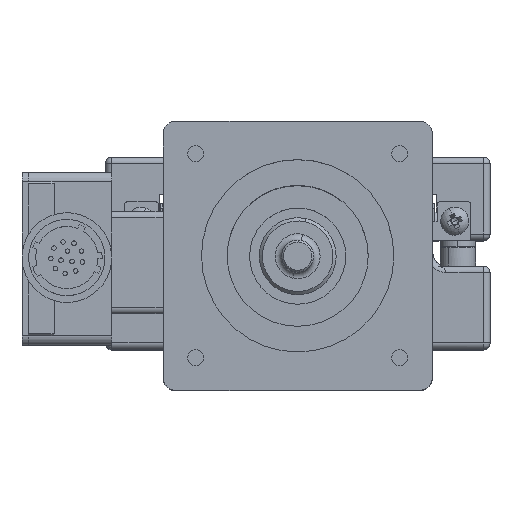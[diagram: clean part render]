
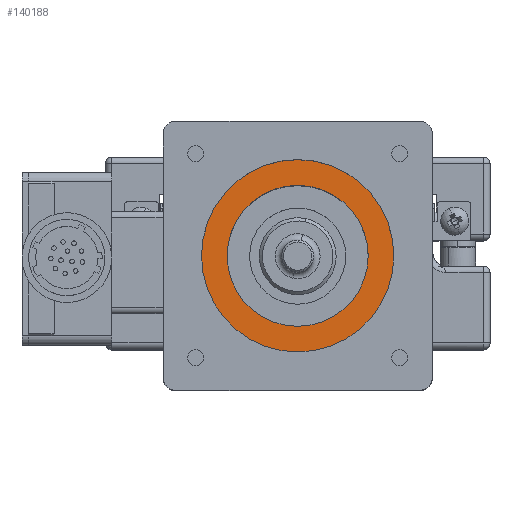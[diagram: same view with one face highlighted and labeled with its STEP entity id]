
A CAD part, top view. The second image highlights one B-rep face of the part: STEP entity #140188.
In plain terms, the highlighted planar face has unit normal (0, 0, 1).
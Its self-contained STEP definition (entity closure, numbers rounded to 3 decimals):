
#3082 = DIRECTION ( 'NONE',  ( 0., 0., 1. ) ) ;
#5875 = CIRCLE ( 'NONE', #36887, 11. ) ;
#9968 = AXIS2_PLACEMENT_3D ( 'NONE', #91434, #112387, #122856 ) ;
#11048 = EDGE_LOOP ( 'NONE', ( #34826, #115892 ) ) ;
#11587 = CARTESIAN_POINT ( 'NONE',  ( 0., 14.5, 52. ) ) ;
#18499 = DIRECTION ( 'NONE',  ( 0., 0., -1. ) ) ;
#18644 = CARTESIAN_POINT ( 'NONE',  ( 15., 14.5, 52. ) ) ;
#22789 = CARTESIAN_POINT ( 'NONE',  ( -15., 14.5, 52. ) ) ;
#31627 = AXIS2_PLACEMENT_3D ( 'NONE', #86907, #120533, #147365 ) ;
#34826 = ORIENTED_EDGE ( 'NONE', *, *, #146162, .T. ) ;
#36887 = AXIS2_PLACEMENT_3D ( 'NONE', #65559, #18499, #52869 ) ;
#46694 = FACE_BOUND ( 'NONE', #99321, .T. ) ;
#47200 = VERTEX_POINT ( 'NONE', #18644 ) ;
#52869 = DIRECTION ( 'NONE',  ( 1., 0., 0. ) ) ;
#59412 = DIRECTION ( 'NONE',  ( 1., 0., 0. ) ) ;
#65559 = CARTESIAN_POINT ( 'NONE',  ( 0., 14.5, 52. ) ) ;
#76061 = AXIS2_PLACEMENT_3D ( 'NONE', #11587, #138637, #59412 ) ;
#83530 = EDGE_CURVE ( 'NONE', #87933, #47200, #112013, .T. ) ;
#83842 = DIRECTION ( 'NONE',  ( 1., 0., 0. ) ) ;
#86907 = CARTESIAN_POINT ( 'NONE',  ( 0., 14.5, 52. ) ) ;
#87933 = VERTEX_POINT ( 'NONE', #22789 ) ;
#91434 = CARTESIAN_POINT ( 'NONE',  ( 0., 14.5, 52. ) ) ;
#93049 = PLANE ( 'NONE',  #76061 ) ;
#95758 = VERTEX_POINT ( 'NONE', #112025 ) ;
#96115 = CIRCLE ( 'NONE', #31627, 11. ) ;
#98471 = ORIENTED_EDGE ( 'NONE', *, *, #114869, .T. ) ;
#99321 = EDGE_LOOP ( 'NONE', ( #113611, #98471 ) ) ;
#104244 = FACE_OUTER_BOUND ( 'NONE', #11048, .T. ) ;
#104879 = AXIS2_PLACEMENT_3D ( 'NONE', #117460, #3082, #83842 ) ;
#112013 = CIRCLE ( 'NONE', #104879, 15. ) ;
#112025 = CARTESIAN_POINT ( 'NONE',  ( -11., 14.5, 52. ) ) ;
#112387 = DIRECTION ( 'NONE',  ( 0., 0., 1. ) ) ;
#113611 = ORIENTED_EDGE ( 'NONE', *, *, #133571, .T. ) ;
#114869 = EDGE_CURVE ( 'NONE', #95758, #129782, #96115, .T. ) ;
#115892 = ORIENTED_EDGE ( 'NONE', *, *, #83530, .T. ) ;
#117460 = CARTESIAN_POINT ( 'NONE',  ( 0., 14.5, 52. ) ) ;
#118298 = CARTESIAN_POINT ( 'NONE',  ( 11., 14.5, 52. ) ) ;
#120533 = DIRECTION ( 'NONE',  ( 0., 0., -1. ) ) ;
#122856 = DIRECTION ( 'NONE',  ( 1., 0., 0. ) ) ;
#129782 = VERTEX_POINT ( 'NONE', #118298 ) ;
#133571 = EDGE_CURVE ( 'NONE', #129782, #95758, #5875, .T. ) ;
#138637 = DIRECTION ( 'NONE',  ( 0., 0., 1. ) ) ;
#140188 = ADVANCED_FACE ( 'NONE', ( #46694, #104244 ), #93049, .T. ) ;
#143585 = CIRCLE ( 'NONE', #9968, 15. ) ;
#146162 = EDGE_CURVE ( 'NONE', #47200, #87933, #143585, .T. ) ;
#147365 = DIRECTION ( 'NONE',  ( 1., 0., 0. ) ) ;
